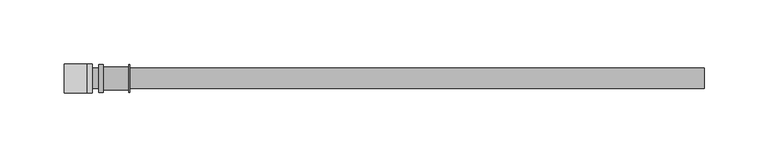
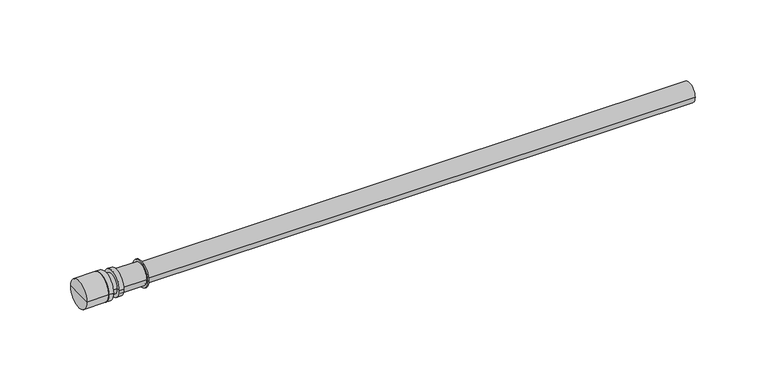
"""IFC4 building model written with IfcOpenShell, lengths in millimetres: pipe fitting geometry, KAN-therm Push element połaczeniowy do grzejnika : KAN-therm Push element połaczeniowy do grzejnika."""

from ifc_helpers import new_model, si_unit, frame, origin, place, context, project, spatial, circle_curve, source, transform, mapped, element, save
from ifc_brep_helpers import plane_surface, cylinder_surface, advanced_brep


def pipe_fitting_dc970a08(model_context):
    return source(origin(), model_context, "Body", "AdvancedBrep", [
        advanced_brep(
        [(-5.1, 11.5, 0.0), (-5.1, -11.5, 0.0), (-5.1, 0.0, 0.0), (-1.1, 11.5, 0.0), (-1.1, -11.5, 0.0), (-1.1, 0.0, 0.0)],
        [
            (0, 1, circle_curve(frame((-5.1, 0.0, 0.0), z_axis=(-1.0, 0.0, 0.0), x_axis=(0.0, -1.0, 0.0)), 11.5)),
            (1, 2),
            (2, 0),
            (1, 0, circle_curve(frame((-5.1, 0.0, 0.0), z_axis=(-1.0, 0.0, 0.0), x_axis=(0.0, -1.0, 0.0)), 11.5)),
            (3, 4, circle_curve(frame((-1.1, 0.0, 0.0), z_axis=(-1.0, 0.0, 0.0), x_axis=(0.0, -1.0, 0.0)), 11.5)),
            (4, 1),
            (0, 3),
            (4, 3, circle_curve(frame((-1.1, 0.0, 0.0), z_axis=(-1.0, 0.0, 0.0), x_axis=(0.0, -1.0, 0.0)), 11.5)),
            (5, 4),
            (3, 5),
        ],
        [
            plane_surface(frame((-5.1, 0.0, 0.0), z_axis=(-1.0, 0.0, 0.0), x_axis=(0.0, -1.0, 0.0))),
            cylinder_surface(frame((-2000.1, 0.0, 0.0), z_axis=(1.0, 0.0, 0.0), x_axis=(0.0, -1.0, 0.0)), 11.5),
            plane_surface(frame((-1.1, 0.0, 0.0), z_axis=(1.0, 0.0, 0.0), x_axis=(0.0, -1.0, 0.0))),
        ],
        [
            (0, [[1, 2, 3]]),
            (0, [[4, -3, -2]]),
            (1, [[5, 6, -1, 7]]),
            (1, [[8, -7, -4, -6]]),
            (2, [[9, -5, 10]]),
            (2, [[-10, -8, -9]]),
        ],
    ),
        advanced_brep(
        [(-23.1, 11.5, 0.0), (-23.1, -11.5, 0.0), (-23.1, 0.0, 0.0), (-5.1, 11.5, 0.0), (-5.1, -11.5, 0.0), (-5.1, 0.0, 0.0)],
        [
            (0, 1, circle_curve(frame((-23.1, 0.0, 0.0), z_axis=(-1.0, 0.0, 0.0), x_axis=(0.0, -1.0, 0.0)), 11.5)),
            (1, 2),
            (2, 0),
            (1, 0, circle_curve(frame((-23.1, 0.0, 0.0), z_axis=(-1.0, 0.0, 0.0), x_axis=(0.0, -1.0, 0.0)), 11.5)),
            (3, 4, circle_curve(frame((-5.1, 0.0, 0.0), z_axis=(-1.0, 0.0, 0.0), x_axis=(0.0, -1.0, 0.0)), 11.5)),
            (4, 1),
            (0, 3),
            (4, 3, circle_curve(frame((-5.1, 0.0, 0.0), z_axis=(-1.0, 0.0, 0.0), x_axis=(0.0, -1.0, 0.0)), 11.5)),
            (5, 4),
            (3, 5),
        ],
        [
            plane_surface(frame((-23.1, 0.0, 0.0), z_axis=(-1.0, 0.0, 0.0), x_axis=(0.0, -1.0, 0.0))),
            cylinder_surface(frame((-2000.1, 0.0, 0.0), z_axis=(1.0, 0.0, 0.0), x_axis=(0.0, -1.0, 0.0)), 11.5),
            plane_surface(frame((-5.1, 0.0, 0.0), z_axis=(1.0, 0.0, 0.0), x_axis=(0.0, -1.0, 0.0))),
        ],
        [
            (0, [[1, 2, 3]]),
            (0, [[4, -3, -2]]),
            (1, [[5, 6, -1, 7]]),
            (1, [[8, -7, -4, -6]]),
            (2, [[9, -5, 10]]),
            (2, [[-10, -8, -9]]),
        ],
    ),
        advanced_brep(
        [(7.6, -10.8, 0.0), (7.6, 10.8, 0.0), (7.6, 0.0, 0.0), (4.1, -10.8, 0.0), (4.1, 10.8, 0.0), (4.1, 0.0, 0.0)],
        [
            (0, 1, circle_curve(frame((7.6, 0.0, 0.0), z_axis=(1.0, 0.0, 0.0), x_axis=(0.0, 1.0, 0.0)), 10.8)),
            (1, 2),
            (2, 0),
            (1, 0, circle_curve(frame((7.6, 0.0, 0.0), z_axis=(1.0, 0.0, 0.0), x_axis=(0.0, 1.0, 0.0)), 10.8)),
            (3, 4, circle_curve(frame((4.1, 0.0, 0.0), z_axis=(1.0, 0.0, 0.0), x_axis=(0.0, 1.0, 0.0)), 10.8)),
            (4, 1),
            (0, 3),
            (4, 3, circle_curve(frame((4.1, 0.0, 0.0), z_axis=(1.0, 0.0, 0.0), x_axis=(0.0, 1.0, 0.0)), 10.8)),
            (5, 4),
            (3, 5),
        ],
        [
            plane_surface(frame((7.6, 0.0, 0.0), z_axis=(1.0, 0.0, 0.0), x_axis=(0.0, 1.0, 0.0))),
            cylinder_surface(frame((2005.1, 0.0, 0.0), z_axis=(-1.0, 0.0, 0.0), x_axis=(0.0, 1.0, 0.0)), 10.8),
            plane_surface(frame((4.1, 0.0, 0.0), z_axis=(-1.0, 0.0, 0.0), x_axis=(0.0, 1.0, 0.0))),
        ],
        [
            (0, [[1, 2, 3]]),
            (0, [[4, -3, -2]]),
            (1, [[5, 6, -1, 7]]),
            (1, [[8, -7, -4, -6]]),
            (2, [[9, -5, 10]]),
            (2, [[-10, -8, -9]]),
        ],
    ),
        advanced_brep(
        [(28.1, -10.8, 0.0), (28.1, 10.8, 0.0), (28.1, 0.0, 0.0), (27.3, -10.8, 0.0), (27.3, 10.8, 0.0), (7.6, -9.0, 0.0), (7.6, 9.0, 0.0), (27.3, 9.0, 0.0), (27.3, -9.0, 0.0), (7.6, 0.0, 0.0)],
        [
            (0, 1, circle_curve(frame((28.1, 0.0, 0.0), z_axis=(1.0, 0.0, 0.0), x_axis=(0.0, 1.0, 0.0)), 10.8)),
            (1, 2),
            (2, 0),
            (1, 0, circle_curve(frame((28.1, 0.0, 0.0), z_axis=(1.0, 0.0, 0.0), x_axis=(0.0, 1.0, 0.0)), 10.8)),
            (3, 4, circle_curve(frame((27.3, 0.0, 0.0), z_axis=(1.0, 0.0, 0.0), x_axis=(0.0, 1.0, 0.0)), 10.8)),
            (4, 1),
            (0, 3),
            (4, 3, circle_curve(frame((27.3, 0.0, 0.0), z_axis=(1.0, 0.0, 0.0), x_axis=(0.0, 1.0, 0.0)), 10.8)),
            (5, 6, circle_curve(frame((7.6, 0.0, 0.0), z_axis=(1.0, 0.0, 0.0), x_axis=(0.0, 1.0, 0.0)), 9.0)),
            (6, 7),
            (7, 8, circle_curve(frame((27.3, 0.0, 0.0), z_axis=(-1.0, 0.0, 0.0), x_axis=(0.0, 1.0, 0.0)), 9.0)),
            (8, 5),
            (6, 5, circle_curve(frame((7.6, 0.0, 0.0), z_axis=(1.0, 0.0, 0.0), x_axis=(0.0, 1.0, 0.0)), 9.0)),
            (8, 7, circle_curve(frame((27.3, 0.0, 0.0), z_axis=(-1.0, 0.0, 0.0), x_axis=(0.0, 1.0, 0.0)), 9.0)),
            (9, 6),
            (5, 9),
            (7, 4),
            (3, 8),
        ],
        [
            plane_surface(frame((28.1, 0.0, 0.0), z_axis=(1.0, 0.0, 0.0), x_axis=(0.0, 1.0, 0.0))),
            cylinder_surface(frame((2005.1, 0.0, 0.0), z_axis=(-1.0, 0.0, 0.0), x_axis=(0.0, 1.0, 0.0)), 10.8),
            cylinder_surface(frame((2005.1, 0.0, 0.0), z_axis=(-1.0, 0.0, 0.0), x_axis=(0.0, 1.0, 0.0)), 9.0),
            plane_surface(frame((7.6, 0.0, 0.0), z_axis=(-1.0, 0.0, 0.0), x_axis=(0.0, 1.0, 0.0))),
            plane_surface(frame((27.3, 0.0, 0.0), z_axis=(-1.0, 0.0, 0.0), x_axis=(0.0, 1.0, 0.0))),
        ],
        [
            (0, [[1, 2, 3]]),
            (0, [[4, -3, -2]]),
            (1, [[5, 6, -1, 7]]),
            (1, [[8, -7, -4, -6]]),
            (2, [[9, 10, 11, 12]]),
            (2, [[13, -12, 14, -10]]),
            (3, [[15, -9, 16]]),
            (3, [[-16, -13, -15]]),
            (4, [[-11, 17, -5, 18]]),
            (4, [[-14, -18, -8, -17]]),
        ],
    ),
        advanced_brep(
        [(476.9, -8.0, 0.0), (476.9, 8.0, 0.0), (476.9, 0.0, 0.0), (28.1, -8.0, 0.0), (28.1, 8.0, 0.0), (28.1, 0.0, 0.0)],
        [
            (0, 1, circle_curve(frame((476.9, 0.0, 0.0), z_axis=(1.0, 0.0, 0.0), x_axis=(0.0, 1.0, 0.0)), 8.0)),
            (1, 2),
            (2, 0),
            (1, 0, circle_curve(frame((476.9, 0.0, 0.0), z_axis=(1.0, 0.0, 0.0), x_axis=(0.0, 1.0, 0.0)), 8.0)),
            (3, 4, circle_curve(frame((28.1, 0.0, 0.0), z_axis=(1.0, 0.0, 0.0), x_axis=(0.0, 1.0, 0.0)), 8.0)),
            (4, 1),
            (0, 3),
            (4, 3, circle_curve(frame((28.1, 0.0, 0.0), z_axis=(1.0, 0.0, 0.0), x_axis=(0.0, 1.0, 0.0)), 8.0)),
            (5, 4),
            (3, 5),
        ],
        [
            plane_surface(frame((476.9, 0.0, 0.0), z_axis=(1.0, 0.0, 0.0), x_axis=(0.0, 1.0, 0.0))),
            cylinder_surface(frame((2000.0, 0.0, 0.0), z_axis=(-1.0, 0.0, 0.0), x_axis=(0.0, 1.0, 0.0)), 8.0),
            plane_surface(frame((28.1, 0.0, 0.0), z_axis=(-1.0, 0.0, 0.0), x_axis=(0.0, 1.0, 0.0))),
        ],
        [
            (0, [[1, 2, 3]]),
            (0, [[4, -3, -2]]),
            (1, [[5, 6, -1, 7]]),
            (1, [[8, -7, -4, -6]]),
            (2, [[9, -5, 10]]),
            (2, [[-10, -8, -9]]),
        ],
    ),
        advanced_brep(
        [(5.1, -8.0, 0.0), (5.1, 8.0, 0.0), (5.1, 0.0, 0.0), (-5.1, -8.0, 0.0), (-5.1, 8.0, 0.0), (-5.1, 0.0, 0.0)],
        [
            (0, 1, circle_curve(frame((5.1, 0.0, 0.0), z_axis=(1.0, 0.0, 0.0), x_axis=(0.0, 1.0, 0.0)), 8.0)),
            (1, 2),
            (2, 0),
            (1, 0, circle_curve(frame((5.1, 0.0, 0.0), z_axis=(1.0, 0.0, 0.0), x_axis=(0.0, 1.0, 0.0)), 8.0)),
            (3, 4, circle_curve(frame((-5.1, 0.0, 0.0), z_axis=(1.0, 0.0, 0.0), x_axis=(0.0, 1.0, 0.0)), 8.0)),
            (4, 1),
            (0, 3),
            (4, 3, circle_curve(frame((-5.1, 0.0, 0.0), z_axis=(1.0, 0.0, 0.0), x_axis=(0.0, 1.0, 0.0)), 8.0)),
            (5, 4),
            (3, 5),
        ],
        [
            plane_surface(frame((5.1, 0.0, 0.0), z_axis=(1.0, 0.0, 0.0), x_axis=(0.0, 1.0, 0.0))),
            cylinder_surface(frame((1987.1, 0.0, 0.0), z_axis=(-1.0, 0.0, 0.0), x_axis=(0.0, 1.0, 0.0)), 8.0),
            plane_surface(frame((-5.1, 0.0, 0.0), z_axis=(-1.0, 0.0, 0.0), x_axis=(0.0, 1.0, 0.0))),
        ],
        [
            (0, [[1, 2, 3]]),
            (0, [[4, -3, -2]]),
            (1, [[5, 6, -1, 7]]),
            (1, [[8, -7, -4, -6]]),
            (2, [[9, -5, 10]]),
            (2, [[-10, -8, -9]]),
        ],
    ),
    ])


if __name__ == "__main__":
    model = new_model("IFC4")
    model_context = context("Model", 3, world=origin())
    ifc_project = project(units=[si_unit("LENGTHUNIT", "METRE", prefix="MILLI")], contexts=[model_context])
    site = spatial("IfcSite", under=ifc_project)
    building = spatial("IfcBuilding", under=site)
    placement = place(None, origin())
    pipe_fitting_shape = pipe_fitting_dc970a08(model_context)
    element("IfcPipeFitting", 1, ObjectType="KAN-therm Push element połaczeniowy do grzejnika : KAN-therm Push element połaczeniowy do grzejnika", at=placement, inside=building, context=model_context, shape_type="MappedRepresentation", body=[
        mapped(pipe_fitting_shape, transform((0.0, 0.0, 0.0), x_axis=(1.0, 0.0, 0.0), y_axis=(0.0, 1.0, 0.0), z_axis=(0.0, 0.0, 1.0))),
    ])
    save(model, "model.ifc")
